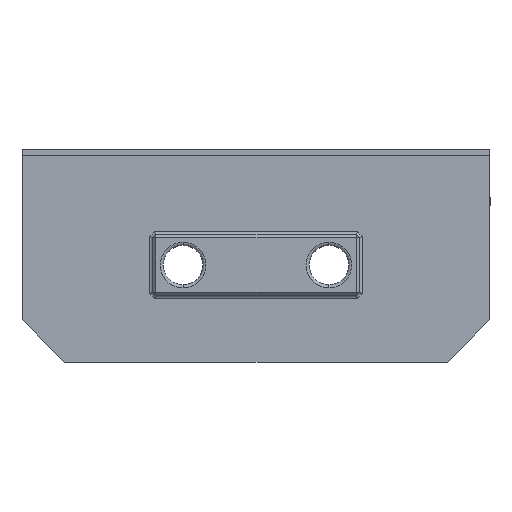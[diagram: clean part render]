
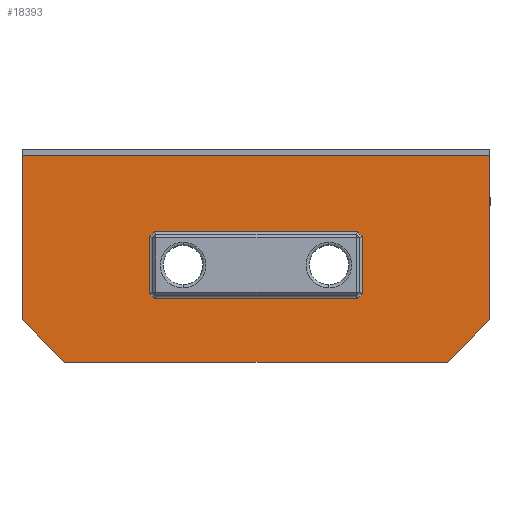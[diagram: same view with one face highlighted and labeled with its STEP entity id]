
A CAD part, front view. The second image highlights one B-rep face of the part: STEP entity #18393.
In plain terms, the highlighted planar face has unit normal (0, -1, 0).
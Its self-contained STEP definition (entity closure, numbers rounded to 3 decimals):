
#321 = LINE ( 'NONE', #14866, #18665 ) ;
#791 = DIRECTION ( 'NONE',  ( 0.707, 0., 0.707 ) ) ;
#1182 = VECTOR ( 'NONE', #8594, 1000. ) ;
#1211 = EDGE_CURVE ( 'NONE', #17813, #9766, #17933, .T. ) ;
#1470 = ORIENTED_EDGE ( 'NONE', *, *, #12881, .F. ) ;
#1587 = DIRECTION ( 'NONE',  ( -0.707, 0., -0.707 ) ) ;
#2045 = EDGE_CURVE ( 'NONE', #21744, #23069, #6584, .T. ) ;
#2312 = VERTEX_POINT ( 'NONE', #4329 ) ;
#2539 = LINE ( 'NONE', #16852, #7710 ) ;
#2580 = EDGE_LOOP ( 'NONE', ( #13733, #18291, #19712, #8703, #9135, #5994 ) ) ;
#3096 = DIRECTION ( 'NONE',  ( 1., 0., 0. ) ) ;
#3767 = LINE ( 'NONE', #21240, #8888 ) ;
#3791 = VECTOR ( 'NONE', #19308, 1000. ) ;
#3957 = CARTESIAN_POINT ( 'NONE',  ( -4.393, 15.478, -42.305 ) ) ;
#4310 = ORIENTED_EDGE ( 'NONE', *, *, #21686, .F. ) ;
#4329 = CARTESIAN_POINT ( 'NONE',  ( -26.186, 15.478, -18.805 ) ) ;
#4379 = VERTEX_POINT ( 'NONE', #12551 ) ;
#4613 = LINE ( 'NONE', #15179, #12199 ) ;
#4666 = CARTESIAN_POINT ( 'NONE',  ( -19.186, 15.478, -52.805 ) ) ;
#5163 = CARTESIAN_POINT ( 'NONE',  ( -5.186, 15.478, -41.512 ) ) ;
#5506 = DIRECTION ( 'NONE',  ( -0.707, 0., 0.707 ) ) ;
#5910 = DIRECTION ( 'NONE',  ( 0., 0., -1. ) ) ;
#5969 = PLANE ( 'NONE',  #7133 ) ;
#5994 = ORIENTED_EDGE ( 'NONE', *, *, #8642, .F. ) ;
#6107 = CARTESIAN_POINT ( 'NONE',  ( 43.814, 15.478, -52.805 ) ) ;
#6345 = VECTOR ( 'NONE', #17260, 1000. ) ;
#6439 = CARTESIAN_POINT ( 'NONE',  ( -5.186, 15.478, -41.512 ) ) ;
#6584 = LINE ( 'NONE', #10318, #6345 ) ;
#6840 = CARTESIAN_POINT ( 'NONE',  ( 50.814, 15.478, -52.805 ) ) ;
#6961 = VERTEX_POINT ( 'NONE', #9466 ) ;
#7133 = AXIS2_PLACEMENT_3D ( 'NONE', #13129, #15445, #15010 ) ;
#7168 = CARTESIAN_POINT ( 'NONE',  ( -26.186, 15.478, -18.805 ) ) ;
#7200 = EDGE_CURVE ( 'NONE', #13027, #10667, #2539, .T. ) ;
#7290 = EDGE_CURVE ( 'NONE', #21364, #4379, #22700, .T. ) ;
#7710 = VECTOR ( 'NONE', #791, 1000. ) ;
#7799 = DIRECTION ( 'NONE',  ( -1., 0., 0. ) ) ;
#8199 = ORIENTED_EDGE ( 'NONE', *, *, #7200, .F. ) ;
#8594 = DIRECTION ( 'NONE',  ( -1., 0., 0. ) ) ;
#8642 = EDGE_CURVE ( 'NONE', #23069, #2312, #15965, .T. ) ;
#8701 = DIRECTION ( 'NONE',  ( 1., 0., 0. ) ) ;
#8703 = ORIENTED_EDGE ( 'NONE', *, *, #10155, .F. ) ;
#8888 = VECTOR ( 'NONE', #8701, 1000. ) ;
#9135 = ORIENTED_EDGE ( 'NONE', *, *, #10195, .F. ) ;
#9341 = VECTOR ( 'NONE', #11622, 1000. ) ;
#9445 = CARTESIAN_POINT ( 'NONE',  ( 50.814, 15.478, -31.305 ) ) ;
#9466 = CARTESIAN_POINT ( 'NONE',  ( 50.814, 15.478, -18.805 ) ) ;
#9514 = EDGE_CURVE ( 'NONE', #14276, #12246, #17467, .T. ) ;
#9657 = CARTESIAN_POINT ( 'NONE',  ( 50.814, 15.478, -18.805 ) ) ;
#9766 = VERTEX_POINT ( 'NONE', #19086 ) ;
#9958 = CARTESIAN_POINT ( 'NONE',  ( 29.021, 15.478, -42.305 ) ) ;
#9974 = CARTESIAN_POINT ( 'NONE',  ( 29.814, 15.478, -18.805 ) ) ;
#10155 = EDGE_CURVE ( 'NONE', #6961, #14276, #11305, .T. ) ;
#10195 = EDGE_CURVE ( 'NONE', #2312, #6961, #4613, .T. ) ;
#10318 = CARTESIAN_POINT ( 'NONE',  ( -19.186, 15.478, -52.805 ) ) ;
#10667 = VERTEX_POINT ( 'NONE', #13426 ) ;
#11305 = LINE ( 'NONE', #9657, #14088 ) ;
#11622 = DIRECTION ( 'NONE',  ( 0., 0., 1. ) ) ;
#11816 = VECTOR ( 'NONE', #22633, 1000. ) ;
#11879 = ORIENTED_EDGE ( 'NONE', *, *, #1211, .F. ) ;
#11902 = FACE_OUTER_BOUND ( 'NONE', #2580, .T. ) ;
#12199 = VECTOR ( 'NONE', #3096, 1000. ) ;
#12246 = VERTEX_POINT ( 'NONE', #6107 ) ;
#12348 = CARTESIAN_POINT ( 'NONE',  ( -4.393, 15.478, -31.305 ) ) ;
#12544 = CARTESIAN_POINT ( 'NONE',  ( 29.814, 15.478, -32.098 ) ) ;
#12551 = CARTESIAN_POINT ( 'NONE',  ( -5.186, 15.478, -32.098 ) ) ;
#12881 = EDGE_CURVE ( 'NONE', #13778, #13027, #3767, .T. ) ;
#13027 = VERTEX_POINT ( 'NONE', #9958 ) ;
#13129 = CARTESIAN_POINT ( 'NONE',  ( 50.814, 15.478, -18.805 ) ) ;
#13426 = CARTESIAN_POINT ( 'NONE',  ( 29.814, 15.478, -41.512 ) ) ;
#13436 = VERTEX_POINT ( 'NONE', #5163 ) ;
#13485 = ORIENTED_EDGE ( 'NONE', *, *, #16052, .F. ) ;
#13619 = CARTESIAN_POINT ( 'NONE',  ( -26.186, 15.478, -45.805 ) ) ;
#13625 = ORIENTED_EDGE ( 'NONE', *, *, #7290, .F. ) ;
#13629 = LINE ( 'NONE', #9974, #9341 ) ;
#13733 = ORIENTED_EDGE ( 'NONE', *, *, #2045, .F. ) ;
#13778 = VERTEX_POINT ( 'NONE', #3957 ) ;
#13809 = EDGE_CURVE ( 'NONE', #4379, #13436, #321, .T. ) ;
#13914 = CARTESIAN_POINT ( 'NONE',  ( -4.393, 15.478, -31.305 ) ) ;
#13937 = LINE ( 'NONE', #6439, #3791 ) ;
#14088 = VECTOR ( 'NONE', #5910, 1000. ) ;
#14276 = VERTEX_POINT ( 'NONE', #18553 ) ;
#14589 = CARTESIAN_POINT ( 'NONE',  ( 29.814, 15.478, -32.098 ) ) ;
#14866 = CARTESIAN_POINT ( 'NONE',  ( -5.186, 15.478, -18.805 ) ) ;
#15010 = DIRECTION ( 'NONE',  ( 0., 0., 1. ) ) ;
#15115 = EDGE_CURVE ( 'NONE', #9766, #21364, #18698, .T. ) ;
#15179 = CARTESIAN_POINT ( 'NONE',  ( 50.814, 15.478, -18.805 ) ) ;
#15445 = DIRECTION ( 'NONE',  ( 0., 1., 0. ) ) ;
#15965 = LINE ( 'NONE', #7168, #21210 ) ;
#16052 = EDGE_CURVE ( 'NONE', #10667, #17813, #13629, .T. ) ;
#16316 = DIRECTION ( 'NONE',  ( 0., 0., 1. ) ) ;
#16433 = VECTOR ( 'NONE', #7799, 1000. ) ;
#16444 = VECTOR ( 'NONE', #5506, 1000. ) ;
#16713 = VECTOR ( 'NONE', #1587, 1000. ) ;
#16852 = CARTESIAN_POINT ( 'NONE',  ( 29.021, 15.478, -42.305 ) ) ;
#17260 = DIRECTION ( 'NONE',  ( -0.707, 0., 0.707 ) ) ;
#17467 = LINE ( 'NONE', #17700, #11816 ) ;
#17700 = CARTESIAN_POINT ( 'NONE',  ( 50.814, 15.478, -45.805 ) ) ;
#17813 = VERTEX_POINT ( 'NONE', #14589 ) ;
#17933 = LINE ( 'NONE', #12544, #16444 ) ;
#18291 = ORIENTED_EDGE ( 'NONE', *, *, #20268, .F. ) ;
#18393 = ADVANCED_FACE ( 'NONE', ( #11902, #18517 ), #5969, .F. ) ;
#18517 = FACE_BOUND ( 'NONE', #19572, .T. ) ;
#18553 = CARTESIAN_POINT ( 'NONE',  ( 50.814, 15.478, -45.805 ) ) ;
#18665 = VECTOR ( 'NONE', #22014, 1000. ) ;
#18698 = LINE ( 'NONE', #9445, #16433 ) ;
#19086 = CARTESIAN_POINT ( 'NONE',  ( 29.021, 15.478, -31.305 ) ) ;
#19308 = DIRECTION ( 'NONE',  ( 0.707, 0., -0.707 ) ) ;
#19572 = EDGE_LOOP ( 'NONE', ( #1470, #4310, #22950, #13625, #19859, #11879, #13485, #8199 ) ) ;
#19712 = ORIENTED_EDGE ( 'NONE', *, *, #9514, .F. ) ;
#19859 = ORIENTED_EDGE ( 'NONE', *, *, #15115, .F. ) ;
#20268 = EDGE_CURVE ( 'NONE', #12246, #21744, #20795, .T. ) ;
#20795 = LINE ( 'NONE', #6840, #1182 ) ;
#21210 = VECTOR ( 'NONE', #16316, 1000. ) ;
#21240 = CARTESIAN_POINT ( 'NONE',  ( 50.814, 15.478, -42.305 ) ) ;
#21364 = VERTEX_POINT ( 'NONE', #12348 ) ;
#21686 = EDGE_CURVE ( 'NONE', #13436, #13778, #13937, .T. ) ;
#21744 = VERTEX_POINT ( 'NONE', #4666 ) ;
#22014 = DIRECTION ( 'NONE',  ( 0., 0., -1. ) ) ;
#22633 = DIRECTION ( 'NONE',  ( -0.707, 0., -0.707 ) ) ;
#22700 = LINE ( 'NONE', #13914, #16713 ) ;
#22950 = ORIENTED_EDGE ( 'NONE', *, *, #13809, .F. ) ;
#23069 = VERTEX_POINT ( 'NONE', #13619 ) ;
